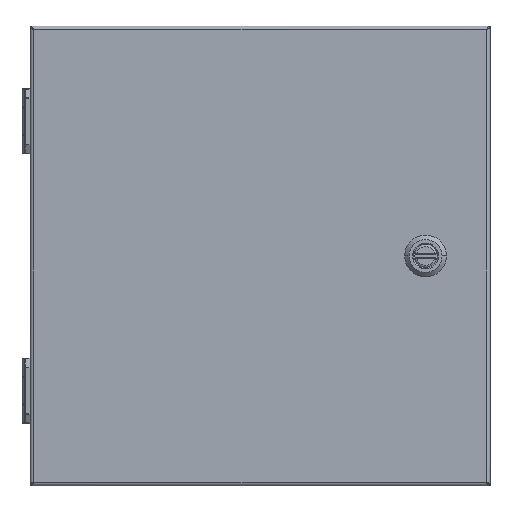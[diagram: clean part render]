
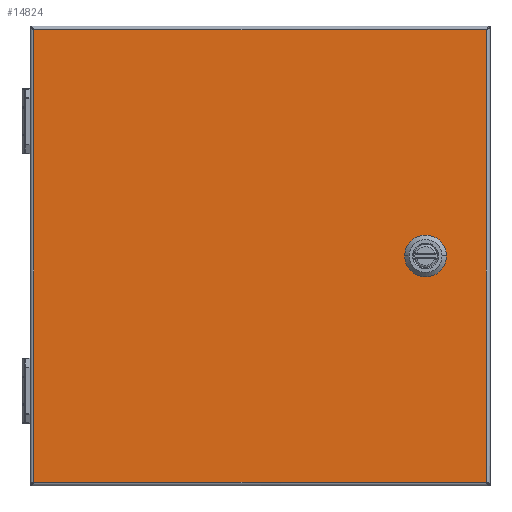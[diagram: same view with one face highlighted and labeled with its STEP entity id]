
A CAD part, top view. The second image highlights one B-rep face of the part: STEP entity #14824.
In plain terms, the highlighted planar face has unit normal (0, 0, 1) as drawn and (0, 1, 0) by its records, which use the part's own axes.
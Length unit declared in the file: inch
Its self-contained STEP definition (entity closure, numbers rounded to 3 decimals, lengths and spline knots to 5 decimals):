
#12223=DIRECTION('',(0.,0.,1.));
#12224=VECTOR('',#12223,12.1854);
#12225=CARTESIAN_POINT('',(-6.0927,0.798,-6.0927));
#12226=LINE('',#12225,#12224);
#12317=DIRECTION('',(0.,0.,-1.));
#12318=VECTOR('',#12317,0.39715);
#12319=CARTESIAN_POINT('',(-0.396,0.798,-4.25592));
#12320=LINE('',#12319,#12318);
#12324=CARTESIAN_POINT('',(0.,0.798,-4.4545));
#12325=DIRECTION('',(0.,1.,0.));
#12326=DIRECTION('',(-0.894,0.,0.448));
#12327=AXIS2_PLACEMENT_3D('',#12324,#12325,#12326);
#12332=DIRECTION('',(-1.,0.,0.));
#12333=VECTOR('',#12332,0.39715);
#12334=CARTESIAN_POINT('',(0.19858,0.798,-4.0585));
#12335=LINE('',#12334,#12333);
#12339=CARTESIAN_POINT('',(0.,0.798,-4.4545));
#12340=DIRECTION('',(0.,1.,0.));
#12341=DIRECTION('',(0.448,0.,0.894));
#12342=AXIS2_PLACEMENT_3D('',#12339,#12340,#12341);
#12347=DIRECTION('',(0.,0.,1.));
#12348=VECTOR('',#12347,0.39715);
#12349=CARTESIAN_POINT('',(0.396,0.798,-4.65308));
#12350=LINE('',#12349,#12348);
#12354=CARTESIAN_POINT('',(0.,0.798,-4.4545));
#12355=DIRECTION('',(0.,1.,0.));
#12356=DIRECTION('',(0.894,0.,-0.448));
#12357=AXIS2_PLACEMENT_3D('',#12354,#12355,#12356);
#12362=DIRECTION('',(1.,0.,0.));
#12363=VECTOR('',#12362,0.39715);
#12364=CARTESIAN_POINT('',(-0.19858,0.798,-4.8505));
#12365=LINE('',#12364,#12363);
#12369=CARTESIAN_POINT('',(0.,0.798,-4.4545));
#12370=DIRECTION('',(0.,1.,0.));
#12371=DIRECTION('',(-0.448,0.,-0.894));
#12372=AXIS2_PLACEMENT_3D('',#12369,#12370,#12371);
#12851=DIRECTION('',(-1.,0.,0.));
#12852=VECTOR('',#12851,12.1854);
#12853=CARTESIAN_POINT('',(6.0927,0.798,-6.0927));
#12854=LINE('',#12853,#12852);
#12937=DIRECTION('',(0.,0.,1.));
#12938=VECTOR('',#12937,12.1854);
#12939=CARTESIAN_POINT('',(6.0927,0.798,-6.0927));
#12940=LINE('',#12939,#12938);
#13543=DIRECTION('',(-1.,0.,0.));
#13544=VECTOR('',#13543,12.1854);
#13545=CARTESIAN_POINT('',(6.0927,0.798,6.0927));
#13546=LINE('',#13545,#13544);
#14138=CARTESIAN_POINT('',(6.0927,0.798,-6.0927));
#14139=CARTESIAN_POINT('',(-6.0927,0.798,-6.0927));
#14140=VERTEX_POINT('',#14138);
#14141=VERTEX_POINT('',#14139);
#14142=CARTESIAN_POINT('',(6.0927,0.798,6.0927));
#14143=CARTESIAN_POINT('',(-6.0927,0.798,6.0927));
#14144=VERTEX_POINT('',#14142);
#14145=VERTEX_POINT('',#14143);
#14258=CARTESIAN_POINT('',(-0.396,0.798,-4.25592));
#14259=CARTESIAN_POINT('',(-0.396,0.798,-4.65308));
#14260=VERTEX_POINT('',#14258);
#14261=VERTEX_POINT('',#14259);
#14262=CARTESIAN_POINT('',(-0.19858,0.798,-4.8505));
#14263=VERTEX_POINT('',#14262);
#14264=CARTESIAN_POINT('',(0.19858,0.798,-4.8505));
#14265=VERTEX_POINT('',#14264);
#14266=CARTESIAN_POINT('',(0.396,0.798,-4.65308));
#14267=VERTEX_POINT('',#14266);
#14268=CARTESIAN_POINT('',(0.396,0.798,-4.25592));
#14269=VERTEX_POINT('',#14268);
#14270=CARTESIAN_POINT('',(0.19858,0.798,-4.0585));
#14271=VERTEX_POINT('',#14270);
#14272=CARTESIAN_POINT('',(-0.19858,0.798,-4.0585));
#14273=VERTEX_POINT('',#14272);
#14792=CARTESIAN_POINT('',(6.1875,0.798,-6.1875));
#14793=DIRECTION('',(0.,1.,0.));
#14794=DIRECTION('',(-1.,0.,0.));
#14795=AXIS2_PLACEMENT_3D('',#14792,#14793,#14794);
#14796=PLANE('',#14795);
#14798=ORIENTED_EDGE('',*,*,#14797,.T.);
#14800=ORIENTED_EDGE('',*,*,#14799,.T.);
#14801=ORIENTED_EDGE('',*,*,#14782,.F.);
#14803=ORIENTED_EDGE('',*,*,#14802,.F.);
#14804=EDGE_LOOP('',(#14798,#14800,#14801,#14803));
#14805=FACE_OUTER_BOUND('',#14804,.F.);
#14807=ORIENTED_EDGE('',*,*,#14806,.F.);
#14809=ORIENTED_EDGE('',*,*,#14808,.T.);
#14811=ORIENTED_EDGE('',*,*,#14810,.F.);
#14813=ORIENTED_EDGE('',*,*,#14812,.T.);
#14815=ORIENTED_EDGE('',*,*,#14814,.F.);
#14817=ORIENTED_EDGE('',*,*,#14816,.T.);
#14819=ORIENTED_EDGE('',*,*,#14818,.F.);
#14821=ORIENTED_EDGE('',*,*,#14820,.T.);
#14822=EDGE_LOOP('',(#14807,#14809,#14811,#14813,#14815,#14817,#14819,#14821));
#14823=FACE_BOUND('',#14822,.F.);
#12328=CIRCLE('',#12327,0.443);
#12343=CIRCLE('',#12342,0.443);
#12358=CIRCLE('',#12357,0.443);
#12373=CIRCLE('',#12372,0.443);
#14782=EDGE_CURVE('',#14141,#14145,#12226,.T.);
#14797=EDGE_CURVE('',#14140,#14144,#12940,.T.);
#14799=EDGE_CURVE('',#14144,#14145,#13546,.T.);
#14802=EDGE_CURVE('',#14140,#14141,#12854,.T.);
#14806=EDGE_CURVE('',#14260,#14261,#12320,.T.);
#14808=EDGE_CURVE('',#14260,#14273,#12328,.T.);
#14810=EDGE_CURVE('',#14271,#14273,#12335,.T.);
#14812=EDGE_CURVE('',#14271,#14269,#12343,.T.);
#14814=EDGE_CURVE('',#14267,#14269,#12350,.T.);
#14816=EDGE_CURVE('',#14267,#14265,#12358,.T.);
#14818=EDGE_CURVE('',#14263,#14265,#12365,.T.);
#14820=EDGE_CURVE('',#14263,#14261,#12373,.T.);
#14824=ADVANCED_FACE('',(#14805,#14823),#14796,.T.);
